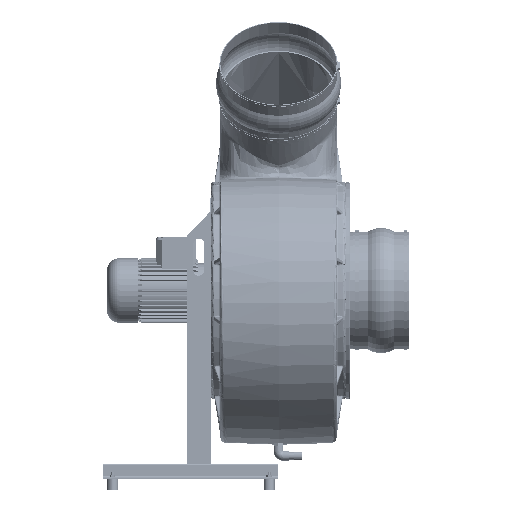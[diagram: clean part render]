
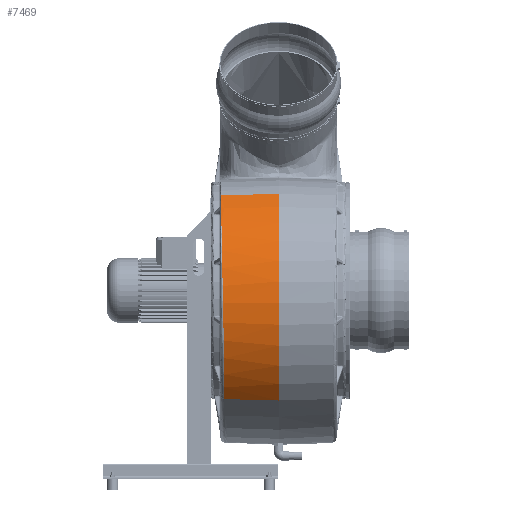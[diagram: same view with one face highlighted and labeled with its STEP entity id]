
A CAD part, left-side view. The second image highlights one B-rep face of the part: STEP entity #7469.
In plain terms, the highlighted face is a revolution surface.
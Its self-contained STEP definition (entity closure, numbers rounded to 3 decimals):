
#7469 = ADVANCED_FACE( '', ( #15915 ), #15916, .F. );
#15915 = FACE_OUTER_BOUND( '', #64715, .T. );
#15916 = SURFACE_OF_REVOLUTION( '', #64716, #64717 );
#64715 = EDGE_LOOP( '', ( #109604, #109605, #109606, #109607 ) );
#64716 = B_SPLINE_CURVE_WITH_KNOTS( '', 1, ( #109608, #109609 ), .UNSPECIFIED., .F., .F., ( 2, 2 ), ( 0., 1. ), .UNSPECIFIED. );
#64717 = AXIS1_PLACEMENT( '', #109610, #109611 );
#109604 = ORIENTED_EDGE( '', *, *, #127492, .F. );
#109605 = ORIENTED_EDGE( '', *, *, #125408, .F. );
#109606 = ORIENTED_EDGE( '', *, *, #127493, .F. );
#109607 = ORIENTED_EDGE( '', *, *, #121896, .T. );
#109608 = CARTESIAN_POINT( '', ( 0., -252.611, 245.865 ) );
#109609 = CARTESIAN_POINT( '', ( -157.5, -248.855, 241.847 ) );
#109610 = CARTESIAN_POINT( '', ( -78.75, -23.34, -33.602 ) );
#109611 = DIRECTION( '', ( 1., 0., 0. ) );
#121896 = EDGE_CURVE( '', #130078, #129345, #130079, .F. );
#125408 = EDGE_CURVE( '', #135647, #133544, #135649, .F. );
#127492 = EDGE_CURVE( '', #133544, #129345, #138480, .F. );
#127493 = EDGE_CURVE( '', #130078, #135647, #138481, .T. );
#129345 = VERTEX_POINT( '', #140763 );
#130078 = VERTEX_POINT( '', #142742 );
#130079 = B_SPLINE_CURVE_WITH_KNOTS( '', 1, ( #142743, #142744 ), .UNSPECIFIED., .F., .F., ( 2, 2 ), ( 0.014, 1. ), .UNSPECIFIED. );
#133544 = VERTEX_POINT( '', #155345 );
#135647 = VERTEX_POINT( '', #162422 );
#135649 = B_SPLINE_CURVE_WITH_KNOTS( '', 1, ( #162424, #162425 ), .UNSPECIFIED., .F., .F., ( 2, 2 ), ( 0.069, 1. ), .UNSPECIFIED. );
#138480 = B_SPLINE_CURVE_WITH_KNOTS( '', 3, ( #170549, #170550, #170551, #170552, #170553, #170554, #170555, #170556, #170557, #170558, #170559, #170560, #170561, #170562, #170563, #170564, #170565, #170566, #170567, #170568, #170569, #170570, #170571, #170572, #170573, #170574, #170575, #170576, #170577, #170578, #170579, #170580, #170581, #170582, #170583, #170584, #170585, #170586, #170587, #170588, #170589, #170590, #170591, #170592, #170593, #170594, #170595, #170596, #170597, #170598, #170599, #170600, #170601, #170602, #170603, #170604, #170605, #170606, #170607, #170608, #170609, #170610, #170611, #170612, #170613, #170614, #170615, #170616, #170617, #170618, #170619, #170620 ), .UNSPECIFIED., .F., .F., ( 4, 2, 2, 2, 2, 2, 2, 2, 2, 2, 2, 2, 2, 2, 2, 2, 2, 2, 2, 2, 2, 2, 2, 2, 2, 2, 2, 2, 2, 2, 2, 2, 2, 2, 2, 4 ), ( 0., 0.016, 0.023, 0.027, 0.031, 0.047, 0.055, 0.063, 0.094, 0.125, 0.156, 0.188, 0.25, 0.313, 0.344, 0.375, 0.406, 0.438, 0.469, 0.5, 0.563, 0.625, 0.656, 0.688, 0.719, 0.75, 0.781, 0.797, 0.813, 0.844, 0.859, 0.875, 0.906, 0.922, 0.938, 1. ), .UNSPECIFIED. );
#138481 = CIRCLE( '', #170621, 361.479 );
#140763 = CARTESIAN_POINT( '', ( -155.222, 49.196, 315.002 ) );
#142742 = CARTESIAN_POINT( '', ( 0., 49.964, 320.367 ) );
#142743 = CARTESIAN_POINT( '', ( -155.222, 49.196, 315.002 ) );
#142744 = CARTESIAN_POINT( '', ( -0.001, 49.95, 320.37 ) );
#155345 = CARTESIAN_POINT( '', ( -146.595, -379.703, -35.932 ) );
#162422 = CARTESIAN_POINT( '', ( 0., -384.809, -36.301 ) );
#162424 = CARTESIAN_POINT( '', ( -146.595, -379.703, -35.932 ) );
#162425 = CARTESIAN_POINT( '', ( 0., -384.809, -36.301 ) );
#170549 = CARTESIAN_POINT( '', ( -155.223, 49.196, 315.002 ) );
#170550 = CARTESIAN_POINT( '', ( -155.223, 45.966, 315.674 ) );
#170551 = CARTESIAN_POINT( '', ( -155.22, 42.724, 316.302 ) );
#170552 = CARTESIAN_POINT( '', ( -155.214, 37.844, 317.177 ) );
#170553 = CARTESIAN_POINT( '', ( -155.212, 36.215, 317.457 ) );
#170554 = CARTESIAN_POINT( '', ( -155.207, 33.766, 317.861 ) );
#170555 = CARTESIAN_POINT( '', ( -155.205, 32.949, 317.993 ) );
#170556 = CARTESIAN_POINT( '', ( -155.202, 31.313, 318.251 ) );
#170557 = CARTESIAN_POINT( '', ( -155.2, 30.494, 318.377 ) );
#170558 = CARTESIAN_POINT( '', ( -155.19, 26.404, 318.994 ) );
#170559 = CARTESIAN_POINT( '', ( -155.179, 23.128, 319.441 ) );
#170560 = CARTESIAN_POINT( '', ( -155.161, 18.207, 320.043 ) );
#170561 = CARTESIAN_POINT( '', ( -155.155, 16.565, 320.232 ) );
#170562 = CARTESIAN_POINT( '', ( -155.141, 13.28, 320.587 ) );
#170563 = CARTESIAN_POINT( '', ( -155.134, 11.638, 320.754 ) );
#170564 = CARTESIAN_POINT( '', ( -155.094, 3.402, 321.529 ) );
#170565 = CARTESIAN_POINT( '', ( -155.055, -3.193, 321.966 ) );
#170566 = CARTESIAN_POINT( '', ( -154.963, -16.4, 322.471 ) );
#170567 = CARTESIAN_POINT( '', ( -154.911, -23.012, 322.541 ) );
#170568 = CARTESIAN_POINT( '', ( -154.793, -36.245, 322.311 ) );
#170569 = CARTESIAN_POINT( '', ( -154.727, -42.849, 322.012 ) );
#170570 = CARTESIAN_POINT( '', ( -154.585, -56.03, 321.049 ) );
#170571 = CARTESIAN_POINT( '', ( -154.508, -62.609, 320.383 ) );
#170572 = CARTESIAN_POINT( '', ( -154.262, -82.3, 317.837 ) );
#170573 = CARTESIAN_POINT( '', ( -154.077, -95.294, 315.415 ) );
#170574 = CARTESIAN_POINT( '', ( -153.672, -121.012, 309.122 ) );
#170575 = CARTESIAN_POINT( '', ( -153.453, -133.655, 305.273 ) );
#170576 = CARTESIAN_POINT( '', ( -153.106, -152.303, 298.439 ) );
#170577 = CARTESIAN_POINT( '', ( -152.987, -158.446, 295.991 ) );
#170578 = CARTESIAN_POINT( '', ( -152.743, -170.585, 290.759 ) );
#170579 = CARTESIAN_POINT( '', ( -152.619, -176.581, 287.975 ) );
#170580 = CARTESIAN_POINT( '', ( -152.366, -188.431, 282.065 ) );
#170581 = CARTESIAN_POINT( '', ( -152.238, -194.264, 278.95 ) );
#170582 = CARTESIAN_POINT( '', ( -151.978, -205.747, 272.401 ) );
#170583 = CARTESIAN_POINT( '', ( -151.846, -211.396, 268.968 ) );
#170584 = CARTESIAN_POINT( '', ( -151.581, -222.517, 261.777 ) );
#170585 = CARTESIAN_POINT( '', ( -151.447, -227.968, 258.033 ) );
#170586 = CARTESIAN_POINT( '', ( -151.178, -238.653, 250.248 ) );
#170587 = CARTESIAN_POINT( '', ( -151.043, -243.886, 246.207 ) );
#170588 = CARTESIAN_POINT( '', ( -150.639, -259.265, 233.633 ) );
#170589 = CARTESIAN_POINT( '', ( -150.369, -269.018, 224.709 ) );
#170590 = CARTESIAN_POINT( '', ( -149.838, -287.533, 205.766 ) );
#170591 = CARTESIAN_POINT( '', ( -149.577, -296.234, 195.811 ) );
#170592 = CARTESIAN_POINT( '', ( -149.198, -308.454, 180.148 ) );
#170593 = CARTESIAN_POINT( '', ( -149.074, -312.376, 174.822 ) );
#170594 = CARTESIAN_POINT( '', ( -148.831, -319.917, 163.96 ) );
#170595 = CARTESIAN_POINT( '', ( -148.712, -323.537, 158.422 ) );
#170596 = CARTESIAN_POINT( '', ( -148.48, -330.472, 147.138 ) );
#170597 = CARTESIAN_POINT( '', ( -148.367, -333.777, 141.409 ) );
#170598 = CARTESIAN_POINT( '', ( -148.149, -340.063, 129.774 ) );
#170599 = CARTESIAN_POINT( '', ( -148.044, -343.045, 123.867 ) );
#170600 = CARTESIAN_POINT( '', ( -147.842, -348.682, 111.882 ) );
#170601 = CARTESIAN_POINT( '', ( -147.745, -351.329, 105.82 ) );
#170602 = CARTESIAN_POINT( '', ( -147.606, -355.044, 96.623 ) );
#170603 = CARTESIAN_POINT( '', ( -147.562, -356.239, 93.54 ) );
#170604 = CARTESIAN_POINT( '', ( -147.474, -358.545, 87.339 ) );
#170605 = CARTESIAN_POINT( '', ( -147.432, -359.656, 84.22 ) );
#170606 = CARTESIAN_POINT( '', ( -147.309, -362.857, 74.816 ) );
#170607 = CARTESIAN_POINT( '', ( -147.232, -364.813, 68.497 ) );
#170608 = CARTESIAN_POINT( '', ( -147.125, -367.481, 58.943 ) );
#170609 = CARTESIAN_POINT( '', ( -147.091, -368.326, 55.746 ) );
#170610 = CARTESIAN_POINT( '', ( -147.026, -369.928, 49.327 ) );
#170611 = CARTESIAN_POINT( '', ( -146.995, -370.684, 46.103 ) );
#170612 = CARTESIAN_POINT( '', ( -146.906, -372.819, 36.4 ) );
#170613 = CARTESIAN_POINT( '', ( -146.854, -374.06, 29.903 ) );
#170614 = CARTESIAN_POINT( '', ( -146.785, -375.648, 20.111 ) );
#170615 = CARTESIAN_POINT( '', ( -146.764, -376.132, 16.84 ) );
#170616 = CARTESIAN_POINT( '', ( -146.725, -377.009, 10.282 ) );
#170617 = CARTESIAN_POINT( '', ( -146.707, -377.402, 6.996 ) );
#170618 = CARTESIAN_POINT( '', ( -146.628, -379.139, -9.482 ) );
#170619 = CARTESIAN_POINT( '', ( -146.595, -379.79, -22.69 ) );
#170620 = CARTESIAN_POINT( '', ( -146.595, -379.703, -35.932 ) );
#170621 = AXIS2_PLACEMENT_3D( '', #182973, #182974, #182975 );
#182973 = CARTESIAN_POINT( '', ( 0., -23.34, -33.602 ) );
#182974 = DIRECTION( '', ( 1., 0., 0. ) );
#182975 = DIRECTION( '', ( 0., 1., 0. ) );
